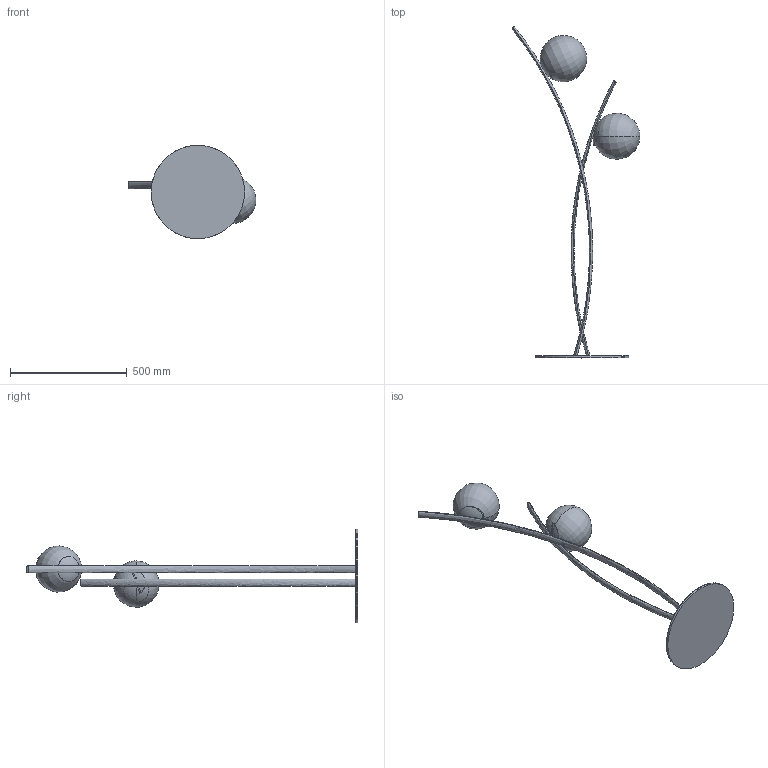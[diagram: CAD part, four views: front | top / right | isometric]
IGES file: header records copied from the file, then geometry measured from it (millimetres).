
Start section: SolidWorks IGES file using analytic representation for surfaces
Global section: file name: Y:\eforma\TECNICO\SOLIDWORKS\E-FORMA\09-LAMPADE\VIDA\02 parts\VIDL1_Vida.IGS; native system: SolidWorks 2022; preprocessor: SolidWorks 2022; author: eforma.tech; date: 240806.103405; units: millimetre
Bounding box: 547.55 x 1422.21 x 400 mm (x, y, z)
Volume: 10407615.9 mm3; surface area: 726247.4 mm2
Topology: 2 solids, 2 shells, 43 faces, 106 edges, 61 vertices
Faces by surface type: revolution 21, bspline 18, plane 4
